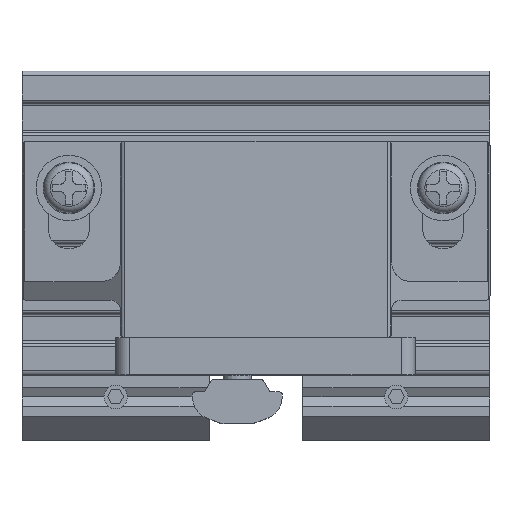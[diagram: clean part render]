
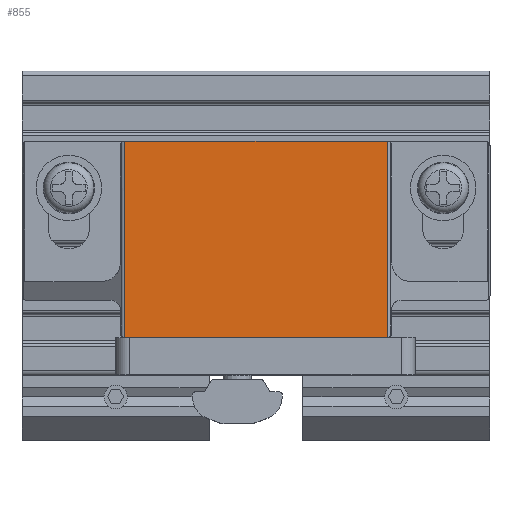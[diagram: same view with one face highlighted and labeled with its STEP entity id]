
A CAD part, top view. The second image highlights one B-rep face of the part: STEP entity #855.
In plain terms, the highlighted planar face has unit normal (0, 0, 1).
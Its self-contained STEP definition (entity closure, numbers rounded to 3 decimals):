
#855=ADVANCED_FACE('',(#1769),#1770,.T.);
#1769=FACE_OUTER_BOUND('',#2956,.T.);
#1770=PLANE('',#2957);
#2956=EDGE_LOOP('',(#4263,#4264,#4265,#4266));
#2957=AXIS2_PLACEMENT_3D('',#4267,#4268,#4269);
#4263=ORIENTED_EDGE('',*,*,#7415,.F.);
#4264=ORIENTED_EDGE('',*,*,#7354,.T.);
#4265=ORIENTED_EDGE('',*,*,#7316,.T.);
#4266=ORIENTED_EDGE('',*,*,#7308,.T.);
#4267=CARTESIAN_POINT('',(49.5,20.5,13.0));
#4268=DIRECTION('',(0.0,0.0,1.0));
#4269=DIRECTION('',(1.0,0.0,0.0));
#7308=EDGE_CURVE('',#8599,#8597,#8600,.T.);
#7316=EDGE_CURVE('',#8613,#8599,#8614,.T.);
#7354=EDGE_CURVE('',#8661,#8613,#8672,.T.);
#7415=EDGE_CURVE('',#8661,#8597,#8762,.T.);
#8597=VERTEX_POINT('',#10510);
#8599=VERTEX_POINT('',#10513);
#8600=LINE('',#10514,#10515);
#8613=VERTEX_POINT('',#10533);
#8614=LINE('',#10534,#10535);
#8661=VERTEX_POINT('',#10595);
#8672=LINE('',#10609,#10610);
#8762=LINE('',#10728,#10729);
#10510=CARTESIAN_POINT('',(11.,21.0,13.0));
#10513=CARTESIAN_POINT('',(39.,21.0,13.0));
#10514=CARTESIAN_POINT('',(49.5,21.0,13.0));
#10515=VECTOR('',#13172,1.0);
#10533=CARTESIAN_POINT('',(39.0,0.,13.0));
#10534=CARTESIAN_POINT('',(39.0,0.,13.0));
#10535=VECTOR('',#13181,1.0);
#10595=CARTESIAN_POINT('',(11.,0.,13.0));
#10609=CARTESIAN_POINT('',(11.,0.,13.0));
#10610=VECTOR('',#13237,1.0);
#10728=CARTESIAN_POINT('',(11.0,0.,13.0));
#10729=VECTOR('',#13314,1.0);
#13172=DIRECTION('',(-1.0,0.0,0.0));
#13181=DIRECTION('',(0.0,1.0,0.0));
#13237=DIRECTION('',(1.0,0.0,0.0));
#13314=DIRECTION('',(0.0,1.0,0.0));
